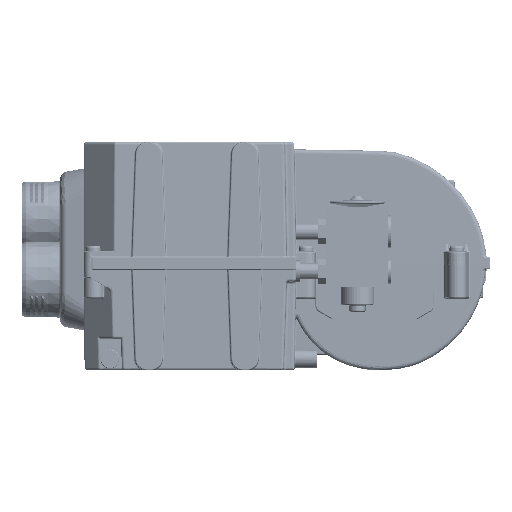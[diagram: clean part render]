
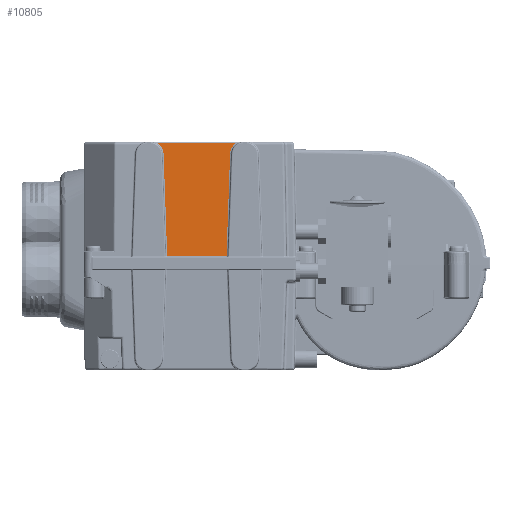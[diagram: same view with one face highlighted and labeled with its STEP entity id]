
A CAD part, left-side view. The second image highlights one B-rep face of the part: STEP entity #10805.
In plain terms, the highlighted planar face has unit normal (-1, 0, 0.018).
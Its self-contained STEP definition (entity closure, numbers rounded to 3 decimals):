
#10805=ADVANCED_FACE('',(#24250),#24251,.T.);
#24250=FACE_OUTER_BOUND('',#66069,.T.);
#24251=PLANE('',#66070);
#66069=EDGE_LOOP('',(#128775,#128776,#128777,#128778,#128779,#128780));
#66070=AXIS2_PLACEMENT_3D('',#128781,#128782,#128783);
#128775=ORIENTED_EDGE('',*,*,#167792,.T.);
#128776=ORIENTED_EDGE('',*,*,#158525,.T.);
#128777=ORIENTED_EDGE('',*,*,#165796,.T.);
#128778=ORIENTED_EDGE('',*,*,#167793,.T.);
#128779=ORIENTED_EDGE('',*,*,#167794,.T.);
#128780=ORIENTED_EDGE('',*,*,#167795,.T.);
#128781=CARTESIAN_POINT('',(-36.0,1273.17,0.));
#128782=DIRECTION('',(-1.,0.,0.017));
#128783=DIRECTION('',(-0.017,0.,-1.));
#158525=EDGE_CURVE('',#178495,#178493,#178496,.F.);
#165796=EDGE_CURVE('',#178493,#190264,#190266,.F.);
#167792=EDGE_CURVE('',#193124,#178495,#193125,.F.);
#167793=EDGE_CURVE('',#190264,#193126,#193127,.F.);
#167794=EDGE_CURVE('',#193126,#193128,#193129,.F.);
#167795=EDGE_CURVE('',#193128,#193124,#193130,.T.);
#178493=VERTEX_POINT('',#210132);
#178495=VERTEX_POINT('',#210134);
#178496=LINE('',#210135,#210136);
#190264=VERTEX_POINT('',#242753);
#190266=LINE('',#242755,#242756);
#193124=VERTEX_POINT('',#250025);
#193125=ELLIPSE('',#250026,10.002,10.0);
#193126=VERTEX_POINT('',#250027);
#193127=LINE('',#250028,#250029);
#193128=VERTEX_POINT('',#250030);
#193129=ELLIPSE('',#250031,10.002,10.0);
#193130=LINE('',#250032,#250033);
#210132=CARTESIAN_POINT('',(-35.887,-54.799,6.491));
#210134=CARTESIAN_POINT('',(-34.584,-52.192,81.132));
#210135=CARTESIAN_POINT('',(-35.895,-54.814,6.035));
#210136=VECTOR('',#273195,1.0);
#242753=CARTESIAN_POINT('',(-35.887,-98.021,6.491));
#242755=CARTESIAN_POINT('',(-35.887,-98.004,6.491));
#242756=VECTOR('',#280932,1.0);
#250025=CARTESIAN_POINT('',(-34.45,-48.151,88.817));
#250026=AXIS2_PLACEMENT_3D('',#283012,#283013,#283014);
#250027=CARTESIAN_POINT('',(-34.584,-100.628,81.132));
#250028=CARTESIAN_POINT('',(-34.584,-100.629,81.149));
#250029=VECTOR('',#283015,1.0);
#250030=CARTESIAN_POINT('',(-34.45,-104.669,88.817));
#250031=AXIS2_PLACEMENT_3D('',#283016,#283017,#283018);
#250032=CARTESIAN_POINT('',(-34.45,1273.17,88.817));
#250033=VECTOR('',#283019,1.0);
#273195=DIRECTION('',(0.017,0.035,0.999));
#280932=DIRECTION('',(0.,1.0,0.0));
#283012=CARTESIAN_POINT('',(-34.59,-42.198,80.783));
#283013=DIRECTION('',(-1.,0.,0.017));
#283014=DIRECTION('',(-0.017,0.,-1.));
#283015=DIRECTION('',(-0.017,0.035,-0.999));
#283016=CARTESIAN_POINT('',(-34.59,-110.622,80.783));
#283017=DIRECTION('',(-1.,0.,0.017));
#283018=DIRECTION('',(-0.017,0.,-1.));
#283019=DIRECTION('',(0.,1.0,0.0));
